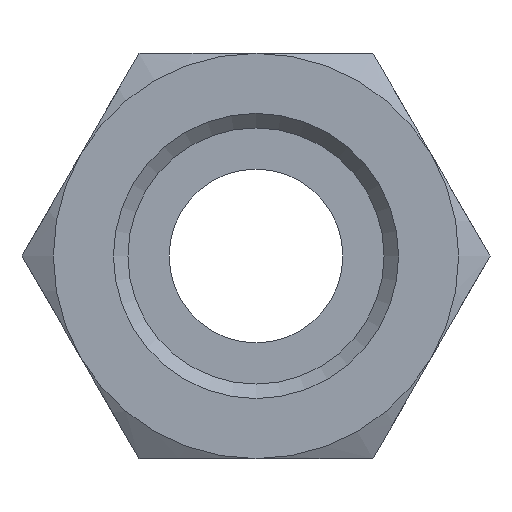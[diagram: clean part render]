
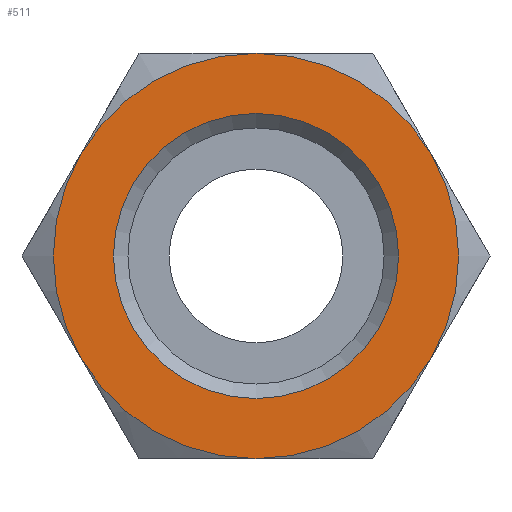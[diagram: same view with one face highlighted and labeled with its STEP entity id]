
A CAD part, front view. The second image highlights one B-rep face of the part: STEP entity #511.
In plain terms, the highlighted planar face has unit normal (0, -1, 0).
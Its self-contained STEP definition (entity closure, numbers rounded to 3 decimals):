
#39=FACE_BOUND('',#145,.T.);
#46=PLANE('',#573);
#110=FACE_OUTER_BOUND('',#144,.T.);
#144=EDGE_LOOP('',(#365,#366,#367,#368,#369,#370));
#145=EDGE_LOOP('',(#371));
#189=CIRCLE('',#572,4.924);
#190=CIRCLE('',#574,7.);
#191=CIRCLE('',#575,7.);
#192=CIRCLE('',#576,7.);
#193=CIRCLE('',#577,7.);
#194=CIRCLE('',#578,7.);
#195=CIRCLE('',#579,7.);
#228=VERTEX_POINT('',#818);
#229=VERTEX_POINT('',#822);
#230=VERTEX_POINT('',#823);
#231=VERTEX_POINT('',#825);
#232=VERTEX_POINT('',#827);
#233=VERTEX_POINT('',#829);
#234=VERTEX_POINT('',#831);
#282=EDGE_CURVE('',#228,#228,#189,.T.);
#283=EDGE_CURVE('',#229,#230,#190,.T.);
#284=EDGE_CURVE('',#230,#231,#191,.T.);
#285=EDGE_CURVE('',#231,#232,#192,.T.);
#286=EDGE_CURVE('',#232,#233,#193,.T.);
#287=EDGE_CURVE('',#233,#234,#194,.T.);
#288=EDGE_CURVE('',#234,#229,#195,.T.);
#365=ORIENTED_EDGE('',*,*,#283,.T.);
#366=ORIENTED_EDGE('',*,*,#284,.T.);
#367=ORIENTED_EDGE('',*,*,#285,.T.);
#368=ORIENTED_EDGE('',*,*,#286,.T.);
#369=ORIENTED_EDGE('',*,*,#287,.T.);
#370=ORIENTED_EDGE('',*,*,#288,.T.);
#371=ORIENTED_EDGE('',*,*,#282,.F.);
#511=ADVANCED_FACE('',(#110,#39),#46,.T.);
#572=AXIS2_PLACEMENT_3D('',#820,#660,#661);
#573=AXIS2_PLACEMENT_3D('',#821,#662,#663);
#574=AXIS2_PLACEMENT_3D('',#824,#664,#665);
#575=AXIS2_PLACEMENT_3D('',#826,#666,#667);
#576=AXIS2_PLACEMENT_3D('',#828,#668,#669);
#577=AXIS2_PLACEMENT_3D('',#830,#670,#671);
#578=AXIS2_PLACEMENT_3D('',#832,#672,#673);
#579=AXIS2_PLACEMENT_3D('',#833,#674,#675);
#660=DIRECTION('center_axis',(0.,-1.,0.));
#661=DIRECTION('ref_axis',(-1.,0.,0.));
#662=DIRECTION('center_axis',(0.,-1.,0.));
#663=DIRECTION('ref_axis',(0.,0.,-1.));
#664=DIRECTION('center_axis',(0.,-1.,0.));
#665=DIRECTION('ref_axis',(1.,0.,0.));
#666=DIRECTION('center_axis',(0.,-1.,0.));
#667=DIRECTION('ref_axis',(1.,0.,0.));
#668=DIRECTION('center_axis',(0.,-1.,0.));
#669=DIRECTION('ref_axis',(1.,0.,0.));
#670=DIRECTION('center_axis',(0.,-1.,0.));
#671=DIRECTION('ref_axis',(1.,0.,0.));
#672=DIRECTION('center_axis',(0.,-1.,0.));
#673=DIRECTION('ref_axis',(1.,0.,0.));
#674=DIRECTION('center_axis',(0.,-1.,0.));
#675=DIRECTION('ref_axis',(1.,0.,0.));
#818=CARTESIAN_POINT('',(4.924,0.,0.));
#820=CARTESIAN_POINT('Origin',(0.,0.,0.));
#821=CARTESIAN_POINT('Origin',(4.424,0.,0.));
#822=CARTESIAN_POINT('',(-6.062,0.,-3.5));
#823=CARTESIAN_POINT('',(0.,0.,-7.));
#824=CARTESIAN_POINT('Origin',(0.,0.,0.));
#825=CARTESIAN_POINT('',(6.062,0.,-3.5));
#826=CARTESIAN_POINT('Origin',(0.,0.,0.));
#827=CARTESIAN_POINT('',(6.062,0.,3.5));
#828=CARTESIAN_POINT('Origin',(0.,0.,0.));
#829=CARTESIAN_POINT('',(0.,0.,7.));
#830=CARTESIAN_POINT('Origin',(0.,0.,0.));
#831=CARTESIAN_POINT('',(-6.062,0.,3.5));
#832=CARTESIAN_POINT('Origin',(0.,0.,0.));
#833=CARTESIAN_POINT('Origin',(0.,0.,0.));
